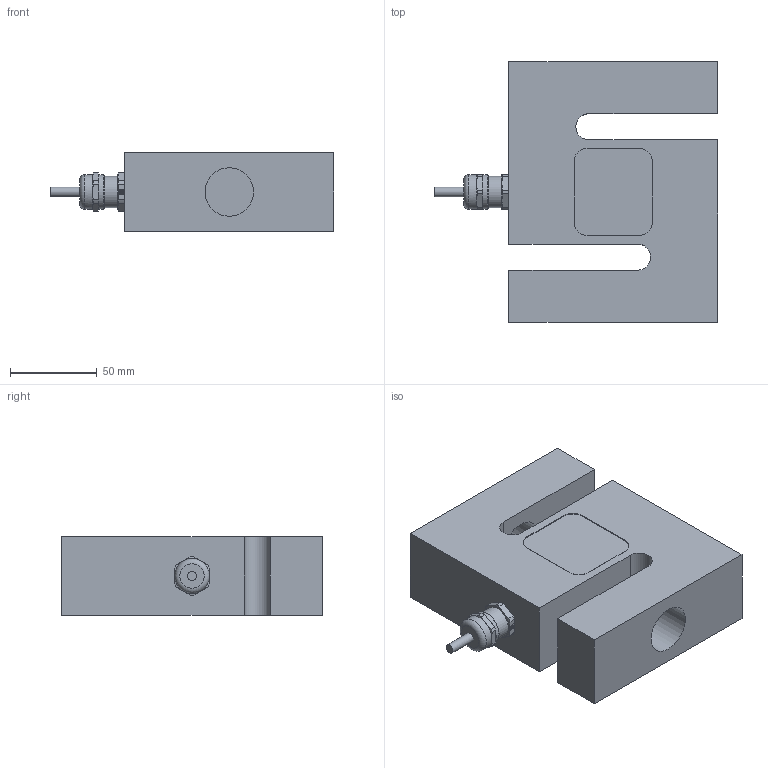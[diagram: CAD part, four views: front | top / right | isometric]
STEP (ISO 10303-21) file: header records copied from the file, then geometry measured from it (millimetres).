
FILE_DESCRIPTION(/* description */ ('Alibre Inc.'),/* implementation_level */ '2;1');
FILE_NAME(/* name */ 'export0',/* time_stamp */ '2017-01-10T12:48:42+01:00',/* author */ (''),/* organization */ (''),/* preprocessor_version */ 'ST-DEVELOPER v14',/* originating_system */ 'Alibre',/* authorisation */ '');
FILE_SCHEMA (('CONFIG_CONTROL_DESIGN'));
Length unit declared in the file: centimetre
Products named in the file (7): ID_1; _SKINTOP MS-M 16x1,5      Art. Nr. 53112010(F=4.5); ID_2; _SKINDICHT BL-M 12x1,5 + O-Ring      Art. Nr. 52103105; ID_3
Bounding box: 162.8 x 150 x 45 mm (x, y, z)
Volume: 668531.8 mm3; surface area: 88389.7 mm2
Topology: 6 solids, 8 shells, 193 faces, 470 edges, 306 vertices
Faces by surface type: plane 97, cylinder 68, cone 21, torus 5, sphere 2
Full cylindrical faces by diameter (mm): 4.5 x1, 5.4 x1, 8 x2, 8.128 x1, 10.376 x1, 12 x1, 14.16 x2, 14.376 x1, 15 x1, 16 x2, 18 x1, 19.6 x1, 19.98 x1, 27.835 x2
Entity records: 5907 total; most frequent: CARTESIAN_POINT 1111, DIRECTION 820, ORIENTED_EDGE 812, EDGE_CURVE 406, AXIS2_PLACEMENT_3D 355, VERTEX_POINT 284, FACE_BOUND 240, EDGE_LOOP 238
